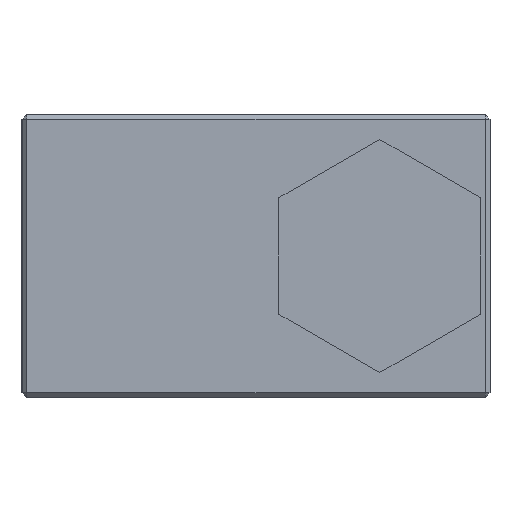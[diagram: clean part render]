
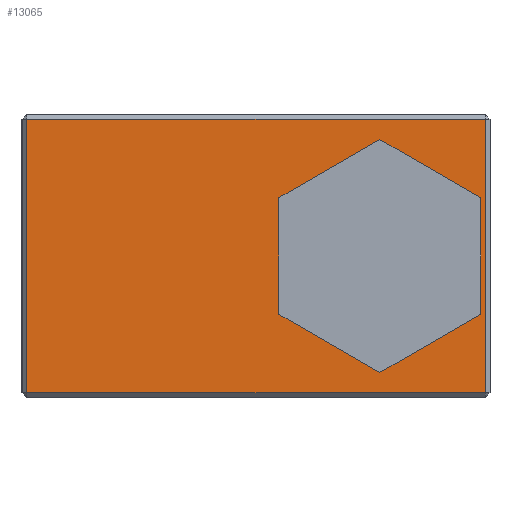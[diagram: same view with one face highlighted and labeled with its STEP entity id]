
A CAD part, front view. The second image highlights one B-rep face of the part: STEP entity #13065.
In plain terms, the highlighted planar face has unit normal (0, -1, 0).
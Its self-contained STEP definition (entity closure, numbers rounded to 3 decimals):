
#430 = EDGE_CURVE ( 'NONE', #5092, #9037, #7879, .T. ) ;
#496 = VECTOR ( 'NONE', #8945, 1000. ) ;
#547 = CARTESIAN_POINT ( 'NONE',  ( 5., -27.25, 6.351 ) ) ;
#933 = VERTEX_POINT ( 'NONE', #4236 ) ;
#1143 = CARTESIAN_POINT ( 'NONE',  ( -23., -27.25, 14.9 ) ) ;
#1169 = CARTESIAN_POINT ( 'NONE',  ( -23., -27.25, -15.4 ) ) ;
#1416 = ORIENTED_EDGE ( 'NONE', *, *, #5582, .T. ) ;
#1725 = DIRECTION ( 'NONE',  ( 0., 0., -1. ) ) ;
#1731 = ORIENTED_EDGE ( 'NONE', *, *, #4036, .F. ) ;
#1856 = CARTESIAN_POINT ( 'NONE',  ( 27.5, -27.25, 14.9 ) ) ;
#1880 = CARTESIAN_POINT ( 'NONE',  ( 27.5, -27.25, -15.4 ) ) ;
#1935 = DIRECTION ( 'NONE',  ( -0.866, 0., -0.5 ) ) ;
#2197 = VECTOR ( 'NONE', #1725, 1000. ) ;
#2231 = DIRECTION ( 'NONE',  ( 0., 0., -1. ) ) ;
#2360 = ORIENTED_EDGE ( 'NONE', *, *, #8730, .F. ) ;
#2410 = DIRECTION ( 'NONE',  ( 0., 0., 1. ) ) ;
#2507 = LINE ( 'NONE', #3733, #2197 ) ;
#2611 = CARTESIAN_POINT ( 'NONE',  ( 5., -27.25, -6.351 ) ) ;
#2685 = EDGE_CURVE ( 'NONE', #5778, #6373, #10219, .T. ) ;
#2936 = AXIS2_PLACEMENT_3D ( 'NONE', #1169, #8287, #2231 ) ;
#2942 = DIRECTION ( 'NONE',  ( 0.866, 0., -0.5 ) ) ;
#2974 = DIRECTION ( 'NONE',  ( 0., 0., -1. ) ) ;
#3596 = LINE ( 'NONE', #10966, #11339 ) ;
#3733 = CARTESIAN_POINT ( 'NONE',  ( 5., -27.25, 6.351 ) ) ;
#4036 = EDGE_CURVE ( 'NONE', #5925, #7950, #5463, .T. ) ;
#4084 = LINE ( 'NONE', #7503, #11173 ) ;
#4236 = CARTESIAN_POINT ( 'NONE',  ( 16., -27.25, 12.702 ) ) ;
#4393 = CARTESIAN_POINT ( 'NONE',  ( 27., -27.25, 6.351 ) ) ;
#4418 = ORIENTED_EDGE ( 'NONE', *, *, #9078, .F. ) ;
#4530 = VECTOR ( 'NONE', #2942, 1000. ) ;
#4898 = ORIENTED_EDGE ( 'NONE', *, *, #430, .T. ) ;
#5092 = VERTEX_POINT ( 'NONE', #1856 ) ;
#5191 = VECTOR ( 'NONE', #8087, 1000. ) ;
#5230 = EDGE_CURVE ( 'NONE', #6373, #5925, #9480, .T. ) ;
#5370 = ORIENTED_EDGE ( 'NONE', *, *, #8554, .F. ) ;
#5463 = LINE ( 'NONE', #8474, #10507 ) ;
#5582 = EDGE_CURVE ( 'NONE', #9037, #7927, #12602, .T. ) ;
#5778 = VERTEX_POINT ( 'NONE', #2611 ) ;
#5925 = VERTEX_POINT ( 'NONE', #8902 ) ;
#6006 = CARTESIAN_POINT ( 'NONE',  ( 5., -27.25, -6.351 ) ) ;
#6178 = LINE ( 'NONE', #1880, #496 ) ;
#6283 = LINE ( 'NONE', #9898, #8660 ) ;
#6314 = ORIENTED_EDGE ( 'NONE', *, *, #5230, .F. ) ;
#6373 = VERTEX_POINT ( 'NONE', #7828 ) ;
#6432 = EDGE_CURVE ( 'NONE', #7927, #6884, #6283, .T. ) ;
#6758 = CARTESIAN_POINT ( 'NONE',  ( 27.5, -27.25, -14.9 ) ) ;
#6884 = VERTEX_POINT ( 'NONE', #6758 ) ;
#6963 = FACE_OUTER_BOUND ( 'NONE', #12765, .T. ) ;
#7105 = CARTESIAN_POINT ( 'NONE',  ( -22.5, -27.25, -15.4 ) ) ;
#7278 = PLANE ( 'NONE',  #2936 ) ;
#7333 = DIRECTION ( 'NONE',  ( 0.866, 0., 0.5 ) ) ;
#7503 = CARTESIAN_POINT ( 'NONE',  ( 27., -27.25, 6.351 ) ) ;
#7828 = CARTESIAN_POINT ( 'NONE',  ( 16., -27.25, -12.702 ) ) ;
#7869 = DIRECTION ( 'NONE',  ( 1., 0., 0. ) ) ;
#7879 = LINE ( 'NONE', #1143, #5191 ) ;
#7927 = VERTEX_POINT ( 'NONE', #8021 ) ;
#7950 = VERTEX_POINT ( 'NONE', #4393 ) ;
#8021 = CARTESIAN_POINT ( 'NONE',  ( -22.5, -27.25, -14.9 ) ) ;
#8087 = DIRECTION ( 'NONE',  ( -1., 0., 0. ) ) ;
#8212 = ORIENTED_EDGE ( 'NONE', *, *, #11980, .T. ) ;
#8287 = DIRECTION ( 'NONE',  ( 0., -1., 0. ) ) ;
#8377 = ORIENTED_EDGE ( 'NONE', *, *, #2685, .F. ) ;
#8474 = CARTESIAN_POINT ( 'NONE',  ( 27., -27.25, -6.351 ) ) ;
#8522 = DIRECTION ( 'NONE',  ( -0.866, 0., 0.5 ) ) ;
#8554 = EDGE_CURVE ( 'NONE', #12388, #5778, #2507, .T. ) ;
#8660 = VECTOR ( 'NONE', #7869, 1000. ) ;
#8730 = EDGE_CURVE ( 'NONE', #933, #12388, #3596, .T. ) ;
#8844 = ORIENTED_EDGE ( 'NONE', *, *, #6432, .T. ) ;
#8902 = CARTESIAN_POINT ( 'NONE',  ( 27., -27.25, -6.351 ) ) ;
#8945 = DIRECTION ( 'NONE',  ( 0., 0., 1. ) ) ;
#9037 = VERTEX_POINT ( 'NONE', #11357 ) ;
#9078 = EDGE_CURVE ( 'NONE', #7950, #933, #4084, .T. ) ;
#9480 = LINE ( 'NONE', #12345, #11810 ) ;
#9898 = CARTESIAN_POINT ( 'NONE',  ( 28., -27.25, -14.9 ) ) ;
#9939 = VECTOR ( 'NONE', #2974, 1000. ) ;
#10219 = LINE ( 'NONE', #6006, #4530 ) ;
#10507 = VECTOR ( 'NONE', #2410, 1000. ) ;
#10966 = CARTESIAN_POINT ( 'NONE',  ( 16., -27.25, 12.702 ) ) ;
#11173 = VECTOR ( 'NONE', #8522, 1000. ) ;
#11339 = VECTOR ( 'NONE', #1935, 1000. ) ;
#11357 = CARTESIAN_POINT ( 'NONE',  ( -22.5, -27.25, 14.9 ) ) ;
#11660 = FACE_BOUND ( 'NONE', #12656, .T. ) ;
#11810 = VECTOR ( 'NONE', #7333, 1000. ) ;
#11980 = EDGE_CURVE ( 'NONE', #6884, #5092, #6178, .T. ) ;
#12345 = CARTESIAN_POINT ( 'NONE',  ( 16., -27.25, -12.702 ) ) ;
#12388 = VERTEX_POINT ( 'NONE', #547 ) ;
#12602 = LINE ( 'NONE', #7105, #9939 ) ;
#12656 = EDGE_LOOP ( 'NONE', ( #6314, #8377, #5370, #2360, #4418, #1731 ) ) ;
#12765 = EDGE_LOOP ( 'NONE', ( #1416, #8844, #8212, #4898 ) ) ;
#13065 = ADVANCED_FACE ( 'NONE', ( #11660, #6963 ), #7278, .T. ) ;
